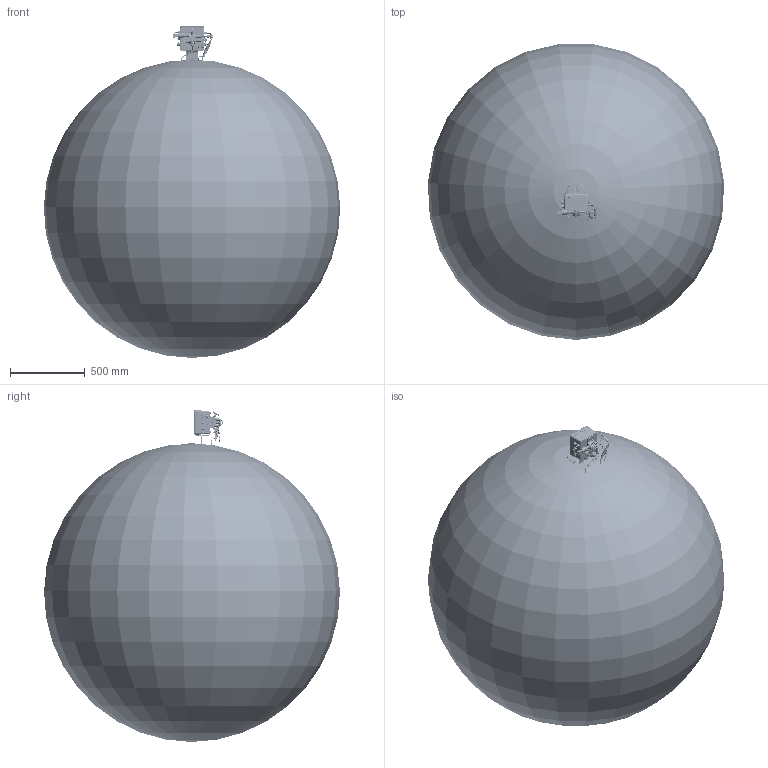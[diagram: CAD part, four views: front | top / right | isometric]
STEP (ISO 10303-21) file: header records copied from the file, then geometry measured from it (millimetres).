
FILE_DESCRIPTION(('STEP AP242'), '1');
FILE_NAME('ÑÃ-ÝÊÐ-Ð-100 ÐÂÃ-Á ëåâûé ñ ÏÏÄ', '', ('UNSPECIFIED'), ('UNSPECIFIED'), 'C3D Converter', 'C3D Toolkit', '');
FILE_SCHEMA(('AP242_MANAGED_MODEL_BASED_3D_ENGINEERING_MIM_LF { 1 0 10303 442 1 1 4 }'));
Length unit declared in the file: millimetre
Bounding box: 1985.41 x 1982.05 x 2224.17 mm (x, y, z)
Volume: 4138159961.1 mm3; surface area: 13582492.4 mm2
Topology: 132 solids, 133 shells, 6173 faces, 15514 edges, 9915 vertices
Faces by surface type: plane 2015, cylinder 1606, extrusion 1105, cone 779, bspline 417, torus 211, sphere 40
Full cylindrical faces by diameter (mm): 1.95 x3, 2 x41, 2.459 x4, 2.5 x12, 2.791 x2, 3 x5, 3.2 x12, 3.242 x9, 3.3 x4, 3.45 x3, 3.459 x2, 3.9 x4, 4 x36, 4.134 x9, 4.3 x2, 4.5 x1, 4.917 x15, 5 x26, 5.5 x6, 6 x58, 6.2 x4, 6.3 x6, 6.6 x4, 7 x13, 8 x10, 8.1 x1, 8.5 x1, 8.77 x2, 8.917 x10, 9 x2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
Entity records: 366630 total; most frequent: CARTESIAN_POINT 181894, ORIENTED_EDGE 28532, DIRECTION 23171, EDGE_CURVE 14267, VERTEX_POINT 9856, AXIS2_PLACEMENT_3D 8220, EDGE_LOOP 7991, VECTOR 6731
